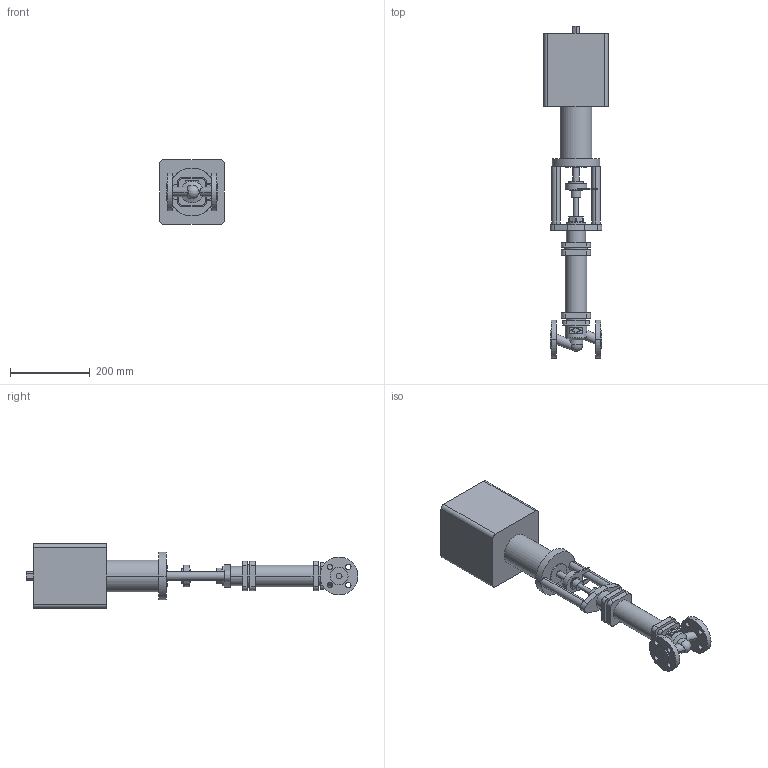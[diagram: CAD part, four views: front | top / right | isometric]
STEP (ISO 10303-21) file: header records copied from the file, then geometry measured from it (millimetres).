
FILE_DESCRIPTION( ( '' ), '1' );
FILE_NAME( 'F:/DE-SHS/TB/OR/04-Sonstiges/daten/files_3d/441-FR2.2/441-PN16-FR2_2/c000004545.stp', '2014-11-06T11:21:14', ( '' ), ( '' ), ' ', ' ', ' ' );
FILE_SCHEMA( ( 'CONFIG_CONTROL_DESIGN' ) );
Length unit declared in the file: millimetre
Products named in the file (2): 1; 2
Bounding box: 162 x 831.5 x 162 mm (x, y, z)
Volume: 6936456.5 mm3; surface area: 393208.3 mm2
Topology: 2 solids, 2 shells, 199 faces, 491 edges, 325 vertices
Faces by surface type: cylinder 100, plane 96, cone 2, sphere 1
Entity records: 6350 total; most frequent: CARTESIAN_POINT 1317, DIRECTION 1092, ORIENTED_EDGE 978, EDGE_CURVE 489, AXIS2_PLACEMENT_3D 414, VERTEX_POINT 325, LINE 264, VECTOR 264
